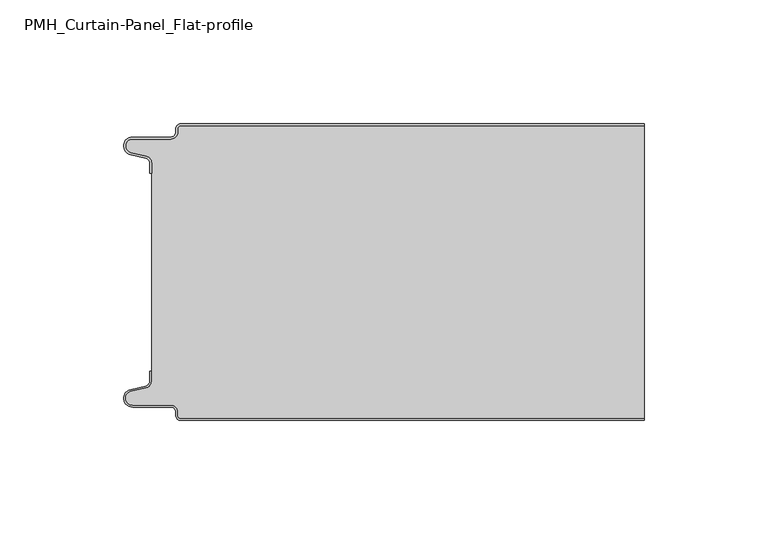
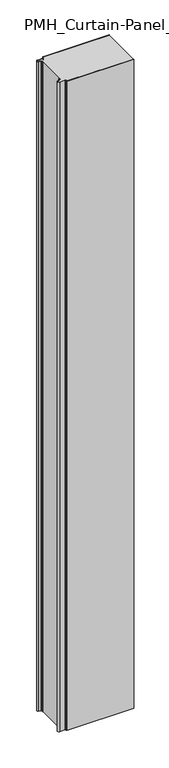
"""IFC4 building model written with IfcOpenShell, lengths in millimetres: plate geometry, PMH_Curtain-Panel_Flat-profile : ACH_PMH_Stone-wool-Panel_120M."""

from ifc_helpers import new_model, si_unit, point, frame_2d, origin, origin_with_axes, place, context, project, spatial, polyline, circle_curve, trimmed, segment, composite_curve, outline, extrude, source, transform, mapped, element, save


def pmh_curtain_panel_flat_profile_8c9b6431(model_context):
    return source(origin(), model_context, "Body", "SweptSolid", [
        extrude(outline(composite_curve([segment(trimmed(circle_curve(frame_2d((-87.4119739, -2.0)), 1.2), [point((-87.4119739, -0.8))], [point((-88.6119739, -2.0))], True, "CARTESIAN"), True, "CONTINUOUS"), segment(polyline([(-88.6119739, -2.0), (-88.6119739, -3.4)]), True, "CONTINUOUS"), segment(trimmed(circle_curve(frame_2d((-91.4119739, -3.4)), 2.8), [point((-88.6119739, -3.4))], [point((-91.4119739, -6.2))], False, "CARTESIAN"), True, "CONTINUOUS"), segment(polyline([(-91.4119739, -6.2), (-106.9119739, -6.2)]), True, "CONTINUOUS"), segment(trimmed(circle_curve(frame_2d((-106.9119739, -9.0)), 2.8), [point((-106.9119739, -6.2))], [point((-107.541837, -11.7282362))], True, "CARTESIAN"), True, "CONTINUOUS"), segment(polyline([(-107.541837, -11.7282362), (-101.3821109, -13.150321)]), True, "CONTINUOUS"), segment(trimmed(circle_curve(frame_2d((-102.0119739, -15.878557)), 2.8), [point((-101.3821109, -13.150321))], [point((-99.2119739, -15.878557))], False, "CARTESIAN"), True, "CONTINUOUS"), segment(polyline([(-99.2119739, -15.878557), (-99.2119739, -20.0), (-100.0119739, -20.0), (-100.0119739, -15.878557)]), True, "CONTINUOUS"), segment(trimmed(circle_curve(frame_2d((-102.0119739, -15.878557)), 2.0), [point((-100.0119739, -15.878557))], [point((-101.5620718, -13.9298169))], True, "CARTESIAN"), True, "CONTINUOUS"), segment(polyline([(-101.5620718, -13.9298169), (-107.7217978, -12.507732)]), True, "CONTINUOUS"), segment(trimmed(circle_curve(frame_2d((-106.9119739, -9.0)), 3.6), [point((-107.7217978, -12.507732))], [point((-106.9119739, -5.4))], False, "CARTESIAN"), True, "CONTINUOUS"), segment(polyline([(-106.9119739, -5.4), (-91.4119739, -5.4)]), True, "CONTINUOUS"), segment(trimmed(circle_curve(frame_2d((-91.4119739, -3.4)), 2.0), [point((-91.4119739, -5.4))], [point((-89.4119739, -3.4))], True, "CARTESIAN"), True, "CONTINUOUS"), segment(polyline([(-89.4119739, -3.4), (-89.4119739, -2.0)]), True, "CONTINUOUS"), segment(trimmed(circle_curve(frame_2d((-87.4119739, -2.0)), 2.0), [point((-89.4119739, -2.0))], [point((-87.4119739, 0.0))], False, "CARTESIAN"), True, "CONTINUOUS"), segment(polyline([(-87.4119739, 0.0), (100.0119739, 0.0), (100.0119739, -0.8), (-87.4119739, -0.8)]), True, "CONTINUOUS")], self_intersect=False)), origin_with_axes(), (0.0, 0.0, 1.0), 1945.7507136),
        extrude(outline(composite_curve([segment(polyline([(-99.2119739, -104.1214426), (-99.2119739, -15.8785573)]), True, "CONTINUOUS"), segment(trimmed(circle_curve(frame_2d((-102.0119739, -15.8785573)), 2.8), [point((-99.2119739, -15.8785573))], [point((-101.3821109, -13.1503212))], True, "CARTESIAN"), True, "CONTINUOUS"), segment(polyline([(-101.3821109, -13.1503212), (-107.541837, -11.7282362)]), True, "CONTINUOUS"), segment(trimmed(circle_curve(frame_2d((-106.911974, -9.0)), 2.8), [point((-107.541837, -11.7282362))], [point((-106.911974, -6.2))], False, "CARTESIAN"), True, "CONTINUOUS"), segment(polyline([(-106.911974, -6.2), (-91.411974, -6.2)]), True, "CONTINUOUS"), segment(trimmed(circle_curve(frame_2d((-91.411974, -3.4)), 2.8), [point((-91.411974, -6.2))], [point((-88.611974, -3.4))], True, "CARTESIAN"), True, "CONTINUOUS"), segment(polyline([(-88.611974, -3.4), (-88.611974, -2.0)]), True, "CONTINUOUS"), segment(trimmed(circle_curve(frame_2d((-87.411974, -2.0)), 1.2), [point((-88.611974, -2.0))], [point((-87.411974, -0.8))], False, "CARTESIAN"), True, "CONTINUOUS"), segment(polyline([(-87.411974, -0.8), (100.0119739, -0.8), (100.0119739, -119.2), (-87.411974, -119.2)]), True, "CONTINUOUS"), segment(trimmed(circle_curve(frame_2d((-87.411974, -118.0)), 1.2), [point((-87.411974, -119.2))], [point((-88.611974, -118.0))], False, "CARTESIAN"), True, "CONTINUOUS"), segment(polyline([(-88.611974, -118.0), (-88.611974, -116.6)]), True, "CONTINUOUS"), segment(trimmed(circle_curve(frame_2d((-91.411974, -116.6)), 2.8), [point((-88.611974, -116.6))], [point((-91.411974, -113.8))], True, "CARTESIAN"), True, "CONTINUOUS"), segment(polyline([(-91.411974, -113.8), (-106.911974, -113.8)]), True, "CONTINUOUS"), segment(trimmed(circle_curve(frame_2d((-106.911974, -111.0)), 2.8), [point((-106.911974, -113.8))], [point((-107.541837, -108.2717638))], False, "CARTESIAN"), True, "CONTINUOUS"), segment(polyline([(-107.541837, -108.2717638), (-101.3821109, -106.8496788)]), True, "CONTINUOUS"), segment(trimmed(circle_curve(frame_2d((-102.0119739, -104.1214426)), 2.8), [point((-101.3821109, -106.8496788))], [point((-99.2119739, -104.1214426))], True, "CARTESIAN"), True, "CONTINUOUS")], self_intersect=False)), origin_with_axes(), (0.0, 0.0, 1.0), 1945.7507136),
        extrude(outline(composite_curve([segment(trimmed(circle_curve(frame_2d((-87.4119739, -118.0)), 2.0), [point((-87.4119739, -120.0))], [point((-89.4119739, -118.0))], False, "CARTESIAN"), True, "CONTINUOUS"), segment(polyline([(-89.4119739, -118.0), (-89.4119739, -116.6)]), True, "CONTINUOUS"), segment(trimmed(circle_curve(frame_2d((-91.4119739, -116.6)), 2.0), [point((-89.4119739, -116.6))], [point((-91.4119739, -114.6))], True, "CARTESIAN"), True, "CONTINUOUS"), segment(polyline([(-91.4119739, -114.6), (-106.9119739, -114.6)]), True, "CONTINUOUS"), segment(trimmed(circle_curve(frame_2d((-106.9119739, -111.0)), 3.6), [point((-106.9119739, -114.6))], [point((-107.7217979, -107.4922678))], False, "CARTESIAN"), True, "CONTINUOUS"), segment(polyline([(-107.7217979, -107.4922678), (-101.5620718, -106.070183)]), True, "CONTINUOUS"), segment(trimmed(circle_curve(frame_2d((-102.0119739, -104.121443)), 2.0), [point((-101.5620718, -106.070183))], [point((-100.0119739, -104.121443))], True, "CARTESIAN"), True, "CONTINUOUS"), segment(polyline([(-100.0119739, -104.121443), (-100.0119739, -100.0), (-99.2119739, -100.0), (-99.2119739, -104.121443)]), True, "CONTINUOUS"), segment(trimmed(circle_curve(frame_2d((-102.0119739, -104.121443)), 2.8), [point((-99.2119739, -104.121443))], [point((-101.3821109, -106.8496792))], False, "CARTESIAN"), True, "CONTINUOUS"), segment(polyline([(-101.3821109, -106.8496792), (-107.5418369, -108.271764)]), True, "CONTINUOUS"), segment(trimmed(circle_curve(frame_2d((-106.9119739, -111.0)), 2.8), [point((-107.5418369, -108.271764))], [point((-106.9119739, -113.8))], True, "CARTESIAN"), True, "CONTINUOUS"), segment(polyline([(-106.9119739, -113.8), (-91.4119739, -113.8)]), True, "CONTINUOUS"), segment(trimmed(circle_curve(frame_2d((-91.4119739, -116.6)), 2.8), [point((-91.4119739, -113.8))], [point((-88.6119739, -116.6))], False, "CARTESIAN"), True, "CONTINUOUS"), segment(polyline([(-88.6119739, -116.6), (-88.6119739, -118.0)]), True, "CONTINUOUS"), segment(trimmed(circle_curve(frame_2d((-87.4119739, -118.0)), 1.2), [point((-88.6119739, -118.0))], [point((-87.4119739, -119.2))], True, "CARTESIAN"), True, "CONTINUOUS"), segment(polyline([(-87.4119739, -119.2), (100.0119739, -119.2), (100.0119739, -120.0), (-87.4119739, -120.0)]), True, "CONTINUOUS")], self_intersect=False)), origin_with_axes(), (0.0, 0.0, 1.0), 1945.7507136),
    ])


if __name__ == "__main__":
    model = new_model("IFC4")
    model_context = context("Model", 3, world=origin())
    ifc_project = project(units=[si_unit("LENGTHUNIT", "METRE", prefix="MILLI")], contexts=[model_context])
    site = spatial("IfcSite", under=ifc_project)
    building = spatial("IfcBuilding", under=site)
    placement = place(None, origin())
    pmh_curtain_panel_flat_profile_shape = pmh_curtain_panel_flat_profile_8c9b6431(model_context)
    element("IfcPlate", 1, ObjectType="PMH_Curtain-Panel_Flat-profile : ACH_PMH_Stone-wool-Panel_120M", at=placement, inside=building, context=model_context, shape_type="MappedRepresentation", body=[
        mapped(pmh_curtain_panel_flat_profile_shape, transform((0.0, 0.0, 0.0), x_axis=(1.0, 0.0, 0.0), y_axis=(0.0, 1.0, 0.0), z_axis=(0.0, 0.0, 1.0))),
    ])
    save(model, "model.ifc")
